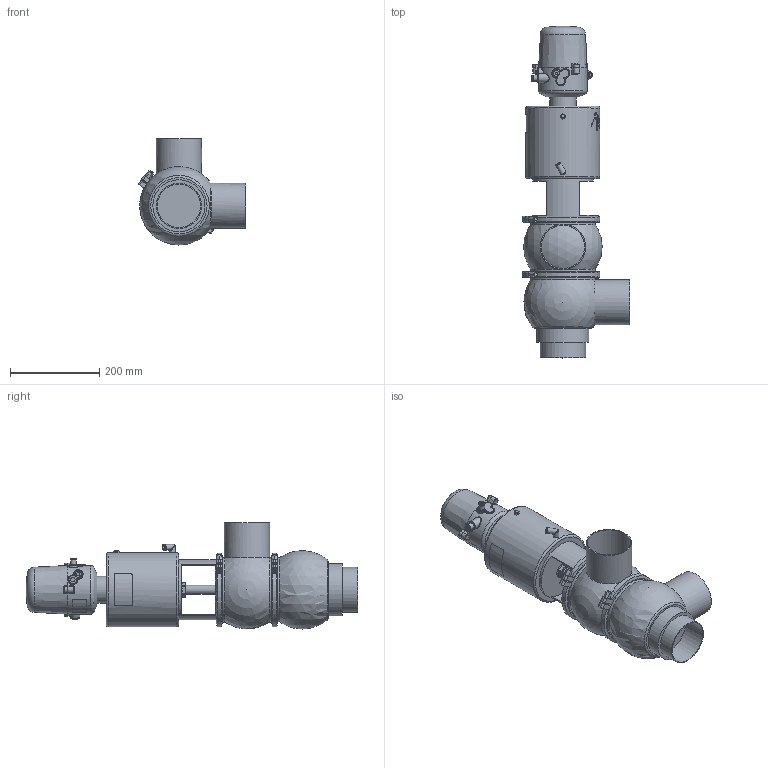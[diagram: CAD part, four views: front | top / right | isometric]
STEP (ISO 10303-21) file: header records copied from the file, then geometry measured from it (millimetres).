
FILE_DESCRIPTION (( 'STEP AP214' ), '1' );
FILE_NAME ('INNOVA K H W OD 4 T4 AS NC & C-TOP S_10.240.16.0073.STEP', '2024-08-06T08:55:57', ( '' ), ( '' ), 'SwSTEP 2.0', 'SolidWorks 2023', '' );
FILE_SCHEMA (( 'AUTOMOTIVE_DESIGN' ));
Length unit declared in the file: millimetre
Products named in the file (8): 10.240.15.0014_T4 AS P0; 10.240.15.0006_OD 4"; INNOVA K H W OD 4 T4 AS NC & C-TOP S_10.240.16.0073; 10.240.15.0017_Estàndard; 10.240.15.0010_DN 100; 10.240.15.0001_DN 100; 10.240.15.0002_OD 4"; 10.426.15.0001_C-TOP S - 1 EV
Assembly tree (8 placements, depth 2):
  INNOVA K H W OD 4 T4 AS NC & C-TOP S_10.240.16.0073
    10.240.15.0006_OD 4"
    10.240.15.0002_OD 4"
    10.240.15.0010_DN 100
    10.240.15.0014_T4 AS P0
    10.240.15.0017_Estàndard
    10.426.15.0001_C-TOP S - 1 EV
    10.240.15.0001_DN 100  x2
Bounding box: 241.26 x 744.5 x 238 mm (x, y, z)
Volume: 10751228 mm3; surface area: 717891.8 mm2
Topology: 8 solids, 8 shells, 1172 faces, 2838 edges, 1889 vertices
Faces by surface type: plane 410, cylinder 356, cone 201, bspline 160, torus 37, sphere 8
Full cylindrical faces by diameter (mm): 0.371 x17, 0.512 x16, 0.658 x16, 0.795 x16, 0.94 x15, 1.098 x15, 1.241 x13, 1.382 x13, 1.523 x11, 1.669 x10, 2.201 x1, 4 x2, 5.5 x2, 6 x2, 6.15 x1, 8 x6, 8.5 x1, 10 x1, 10.5 x1, 11 x2, 12.5 x3, 13 x2, 13.5 x2, 16 x1, 17 x3, 20 x3, 20.5 x1, 22 x2, 31 x1, 34.5 x3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
Entity records: 58078 total; most frequent: CARTESIAN_POINT 27869, ORIENTED_EDGE 4516, DIRECTION 3649, EDGE_CURVE 2258, VERTEX_POINT 1606, EDGE_LOOP 1568, AXIS2_PLACEMENT_3D 1496, FACE_OUTER_BOUND 1330
